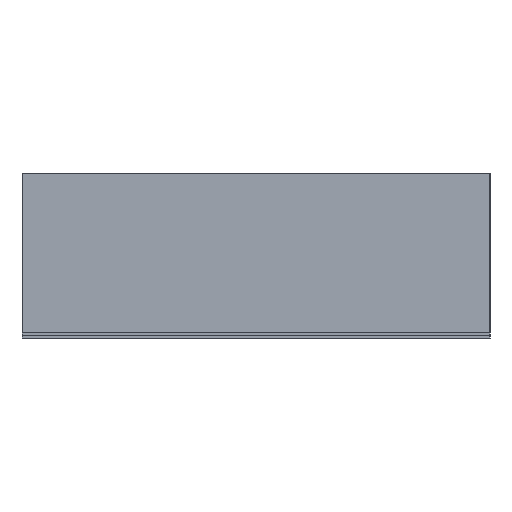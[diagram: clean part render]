
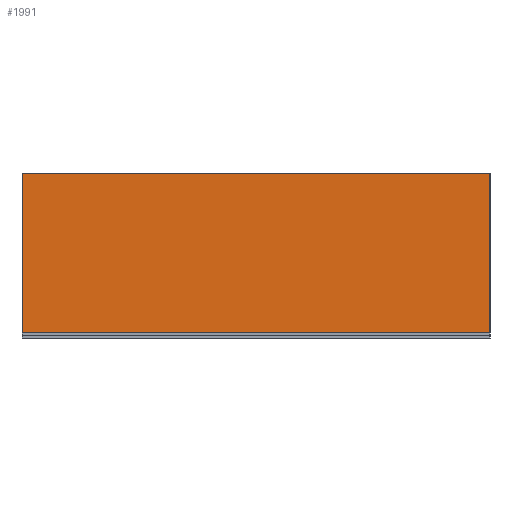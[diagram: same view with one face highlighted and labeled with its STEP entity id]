
A CAD part, left-side view. The second image highlights one B-rep face of the part: STEP entity #1991.
In plain terms, the highlighted planar face has unit normal (-1, 0, 0).
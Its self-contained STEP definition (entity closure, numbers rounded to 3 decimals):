
#1935=CARTESIAN_POINT('',(0.,0.,0.));
#1936=VERTEX_POINT('',#1935);
#1944=CARTESIAN_POINT('',(0.,0.,3.));
#1945=VERTEX_POINT('',#1944);
#1952=CARTESIAN_POINT('',(0.,0.,0.));
#1953=DIRECTION('',(0.,0.,1.));
#1954=VECTOR('',#1953,3.);
#1955=LINE('',#1952,#1954);
#1956=EDGE_CURVE('',#1936,#1945,#1955,.T.);
#1961=CARTESIAN_POINT('',(0.,8.82,0.));
#1962=DIRECTION('',(-1.,0.,0.));
#1963=DIRECTION('',(0.,-1.,0.));
#1964=AXIS2_PLACEMENT_3D('',#1961,#1962,#1963);
#1965=PLANE('',#1964);
#1966=CARTESIAN_POINT('',(0.,8.82,0.));
#1967=VERTEX_POINT('',#1966);
#1968=CARTESIAN_POINT('',(0.,8.82,0.));
#1969=DIRECTION('',(0.,-1.,0.));
#1970=VECTOR('',#1969,8.82);
#1971=LINE('',#1968,#1970);
#1972=EDGE_CURVE('',#1967,#1936,#1971,.T.);
#1973=ORIENTED_EDGE('',*,*,#1972,.T.);
#1974=ORIENTED_EDGE('',*,*,#1956,.T.);
#1975=CARTESIAN_POINT('',(0.,8.82,3.));
#1976=VERTEX_POINT('',#1975);
#1977=CARTESIAN_POINT('',(0.,8.82,3.));
#1978=DIRECTION('',(-0.,-1.,-0.));
#1979=VECTOR('',#1978,8.82);
#1980=LINE('',#1977,#1979);
#1981=EDGE_CURVE('',#1976,#1945,#1980,.T.);
#1982=ORIENTED_EDGE('',*,*,#1981,.F.);
#1983=CARTESIAN_POINT('',(0.,8.82,0.));
#1984=DIRECTION('',(0.,0.,1.));
#1985=VECTOR('',#1984,3.);
#1986=LINE('',#1983,#1985);
#1987=EDGE_CURVE('',#1967,#1976,#1986,.T.);
#1988=ORIENTED_EDGE('',*,*,#1987,.F.);
#1989=EDGE_LOOP('',(#1973,#1974,#1982,#1988));
#1990=FACE_BOUND('',#1989,.T.);
#1991=ADVANCED_FACE('',(#1990),#1965,.T.);
